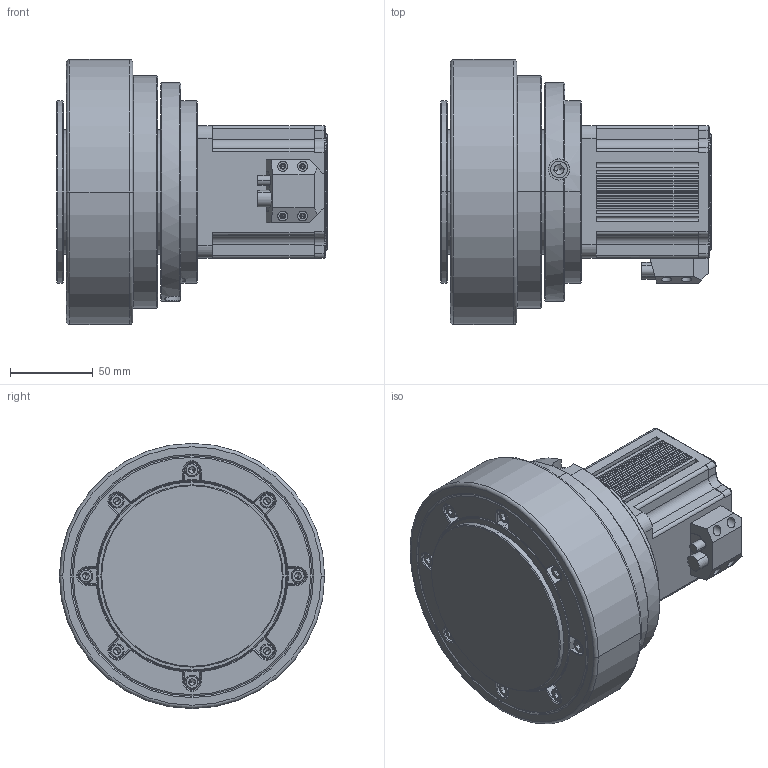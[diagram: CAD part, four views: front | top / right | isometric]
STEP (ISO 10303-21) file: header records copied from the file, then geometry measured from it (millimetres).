
FILE_DESCRIPTION((''),'2;1');
FILE_NAME('AEQ-115N-032-10-19-1-H40-W160_ASM','2025-03-07T09:24:55',('ms15079'),(''),'CREO PARAMETRIC BY PTC INC, 2018100','CREO PARAMETRIC BY PTC INC, 2018100','');
FILE_SCHEMA(('CONFIG_CONTROL_DESIGN'));
Length unit declared in the file: millimetre
Products named in the file (18): SINGLE_COIL_LOCK_WASHERS_LIGH_1; HEXAGON_SOCKET_HEAD_CAP_S-19899; AEQ-115N-L2-19-1_X2_FF08_X0_1_1; HEX_SOCKET_SET_SCREWS_WITH_FL_1; HEXAGON_SOCKET_HEAD_CAP_SC-2261; 090-19_X2_8F7495017D275957_X0_1; AEQ-115-H40-W160; AEQ-115N-032-10-19-1-H40-W160_1_ASM; 80000_11_1; 00_1-15708_1; 00_1-17282_1; 000_ASM_1_ASM_1_ASM; 60_1_1; 100_1_1; 800001_ASM_9_ASM_1_ASM; MGR-90-32-075-30-001__ASM_1_ASM; 80-750_ASM; AEQ-115N-032-10-19-1-H40-W160_ASM
Assembly tree (32 placements, depth 6):
  AEQ-115N-032-10-19-1-H40-W160_ASM
    AEQ-115N-032-10-19-1-H40-W160_1_ASM
      SINGLE_COIL_LOCK_WASHERS_LIGH_1  x8
      HEXAGON_SOCKET_HEAD_CAP_S-19899  x8
      AEQ-115N-L2-19-1_X2_FF08_X0_1_1
      HEX_SOCKET_SET_SCREWS_WITH_FL_1  x2
      HEXAGON_SOCKET_HEAD_CAP_SC-2261
      090-19_X2_8F7495017D275957_X0_1
      AEQ-115-H40-W160
    80-750_ASM
      MGR-90-32-075-30-001__ASM_1_ASM
        800001_ASM_9_ASM_1_ASM
          80000_11_1
          000_ASM_1_ASM_1_ASM
            00_1-15708_1
            00_1-17282_1
          60_1_1
          100_1_1
Bounding box: 163.5 x 160 x 160 mm (x, y, z)
Volume: 1747423.8 mm3; surface area: 230326.1 mm2
Topology: 27 solids, 31 shells, 3288 faces, 7204 edges, 3994 vertices
Faces by surface type: cone 1560, cylinder 1062, plane 620, torus 38, bspline 8
Entity records: 38259 total; most frequent: CARTESIAN_POINT 7327, DIRECTION 6868, ORIENTED_EDGE 6102, EDGE_CURVE 3059, AXIS2_PLACEMENT_3D 2602, VERTEX_POINT 1872, VECTOR 1664, LINE 1664
